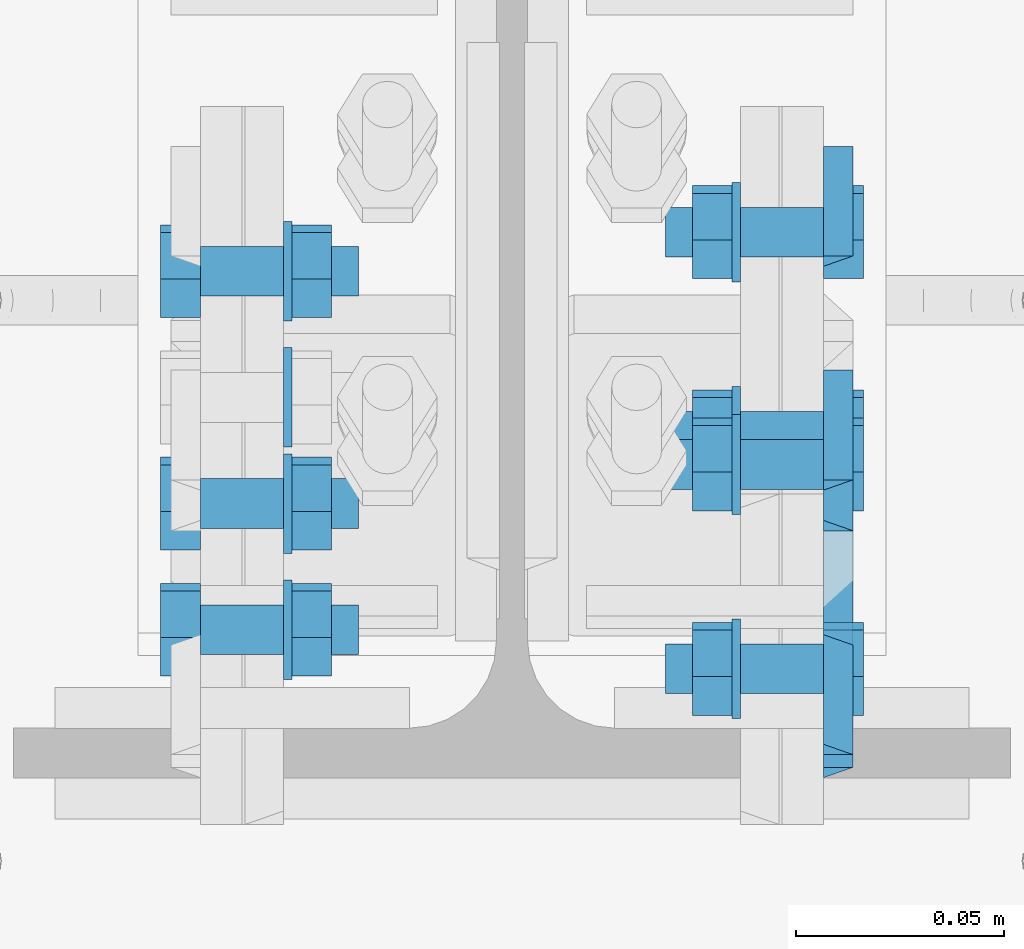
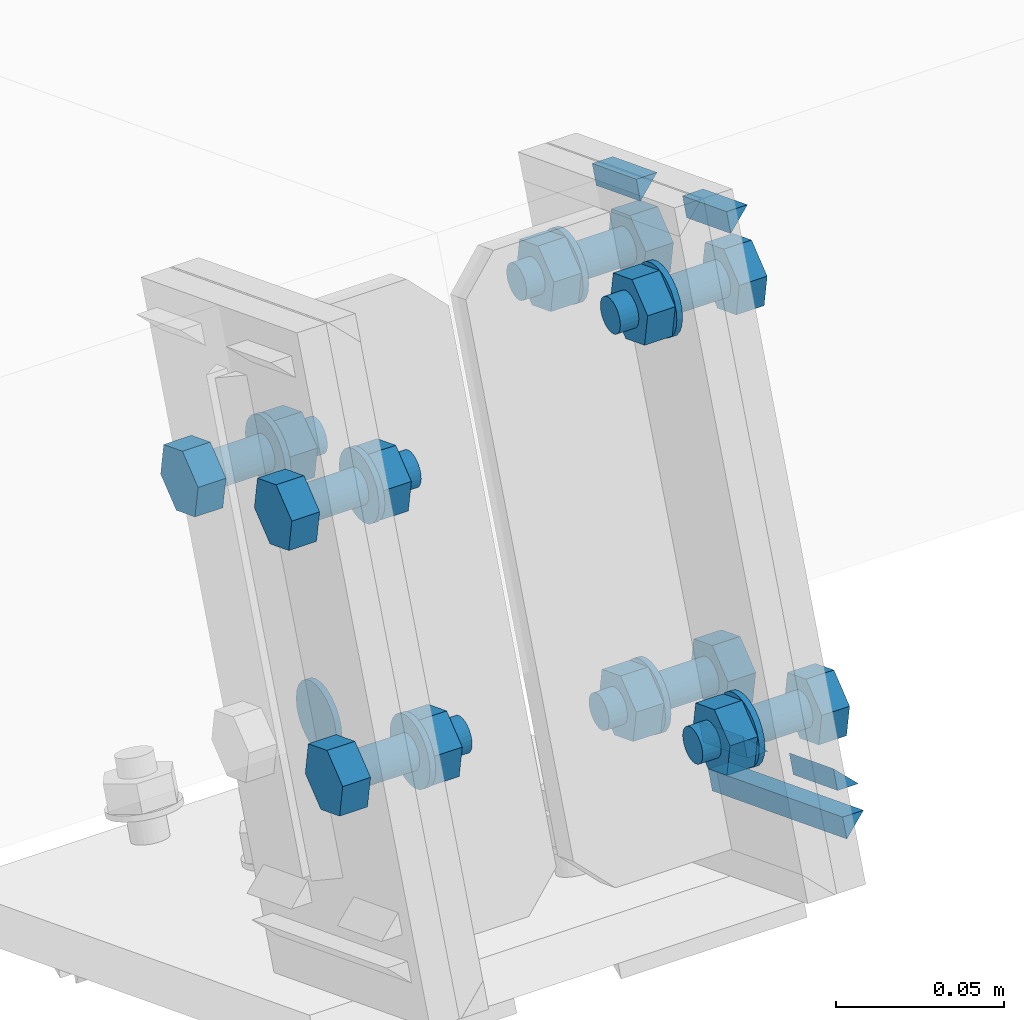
# One storey, part 35 of 72: 29 mechanical fasteners, 10 fasteners.
"""IFC4 building model written with IfcOpenShell, lengths in metres."""

from ifc_helpers import new_model, si_unit, frame, origin_with_axes, place, context, project, spatial, polyline, outline, extrude, type_object, element, save


model = new_model("IFC4")

# Units and contexts
model_context = context("Model", 3, precision=1e-05, world=origin_with_axes())
ifc_project = project(units=[si_unit("LENGTHUNIT", "METRE"), si_unit("AREAUNIT", "SQUARE_METRE"), si_unit("VOLUMEUNIT", "CUBIC_METRE"), si_unit("MASSUNIT", "GRAM", prefix="KILO"), si_unit("TIMEUNIT", "SECOND"), si_unit("PLANEANGLEUNIT", "RADIAN"), si_unit("SOLIDANGLEUNIT", "STERADIAN"), si_unit("THERMODYNAMICTEMPERATUREUNIT", "DEGREE_CELSIUS")], contexts=[model_context])

# Site, building, storey
placement_1 = place(None, origin_with_axes())
site = spatial("IfcSite", under=ifc_project, at=placement_1, Name="Italia", CompositionType="ELEMENT")
building = spatial("IfcBuilding", under=site, at=placement_1, Name="Uffici", CompositionType="ELEMENT")
storey = spatial("IfcBuildingStorey", under=building, at=placement_1, Name="Storey 0", CompositionType="ELEMENT", Elevation=0.0)

# Mechanical fasteners
mechanical_fastener_type_1 = type_object("IfcMechanicalFastenerType", Name="Collegamento 0203_0202", PredefinedType="BOLT")
placement_2 = place(placement_1, origin_with_axes())
mechanical_fastener_1_placement = place(placement_2, origin_with_axes())
element("IfcMechanicalFastener", 1, at=mechanical_fastener_1_placement, inside=storey, type_object=mechanical_fastener_type_1, Name="Collegamento 0203_0202", NominalDiameter=0.024, context=model_context, shape_type="SweptSolid", body=[
    extrude(outline(polyline([(0.0, 0.0), (-0.000408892, -0.00310564), (-0.0016077, -0.00600004), (-0.00351472, -0.00848532), (-0.006, -0.0103922), (-0.00889417, -0.011591), (-0.012, -0.0120001), (-0.0151058, -0.011591), (-0.018, -0.0103922), (-0.0204853, -0.00848532), (-0.0223923, -0.00600004), (-0.0235911, -0.00310564), (-0.024, 0.0), (-0.0235911, 0.00310564), (-0.0223923, 0.00600004), (-0.0204853, 0.00848532), (-0.018, 0.0103922), (-0.0151058, 0.011591), (-0.012, 0.0120001), (-0.00889417, 0.011591), (-0.006, 0.0103922), (-0.00351471, 0.00848532), (-0.00160769, 0.00600004), (-0.000408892, 0.00310564), (0.0, 0.0)])), frame((6.702, -0.035356, 7.09676), z_axis=(-1.0, 0.0, 0.0), x_axis=(0.0, -1.0, 0.0)), (0.0, 0.0, 1.0), 0.00199986),
])
mechanical_fastener_type_2 = type_object("IfcMechanicalFastenerType", Name="Collegamento 0203_0202", PredefinedType="BOLT")
mechanical_fastener_2_placement = place(placement_2, origin_with_axes())
element("IfcMechanicalFastener", 2, at=mechanical_fastener_2_placement, inside=storey, type_object=mechanical_fastener_type_2, Name="Collegamento 0203_0202", NominalDiameter=0.0119999, context=model_context, shape_type="SweptSolid", body=[
    extrude(outline(polyline([(0.0, 0.0), (-0.0111886, -0.00433779), (-0.0205394, 0.00318336), (-0.0187015, 0.0150418), (-0.00751284, 0.0193791), (0.00183791, 0.0118585), (0.0, 0.0)])), frame((6.68, -0.0886499, 7.11092), z_axis=(-1.0, 0.0, 0.0), x_axis=(0.0, -1.0, 0.0)), (0.0, 0.0, 1.0), 0.00960016),
])
mechanical_fastener_type_3 = type_object("IfcMechanicalFastenerType", Name="Collegamento 0203_0202", PredefinedType="BOLT")
mechanical_fastener_3_placement = place(placement_2, origin_with_axes())
element("IfcMechanicalFastener", 3, at=mechanical_fastener_3_placement, inside=storey, type_object=mechanical_fastener_type_3, Name="Collegamento 0203_0202", NominalDiameter=0.012, context=model_context, shape_type="SweptSolid", body=[
    extrude(outline(polyline([(0.0, 0.0), (-0.000204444, -0.00155306), (-0.000803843, -0.00299978), (-0.00175735, -0.00424242), (-0.003, -0.00519609), (-0.00444708, -0.00579548), (-0.006, -0.00600004), (-0.00755291, -0.00579548), (-0.009, -0.00519609), (-0.0102426, -0.00424242), (-0.0111962, -0.00299978), (-0.0117956, -0.00155306), (-0.012, 0.0), (-0.0117956, 0.00155306), (-0.0111962, 0.00299978), (-0.0102426, 0.00424242), (-0.009, 0.00519609), (-0.00755291, 0.00579548), (-0.006, 0.00600004), (-0.00444708, 0.00579548), (-0.003, 0.00519609), (-0.00175735, 0.00424242), (-0.000803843, 0.00299978), (-0.000204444, 0.00155306), (0.0, 0.0)])), frame((6.718, -0.0852992, 7.11844), z_axis=(-1.0, 0.0, 0.0), x_axis=(0.0, -1.0, 0.0)), (0.0, 0.0, 1.0), 0.0380001),
])
mechanical_fastener_type_4 = type_object("IfcMechanicalFastenerType", Name="Collegamento 0203_0202", PredefinedType="BOLT")
mechanical_fastener_4_placement = place(placement_2, origin_with_axes())
element("IfcMechanicalFastener", 4, at=mechanical_fastener_4_placement, inside=storey, type_object=mechanical_fastener_type_4, Name="Collegamento 0203_0202", NominalDiameter=0.0119999, context=model_context, shape_type="SweptSolid", body=[
    extrude(outline(polyline([(0.0, 0.0), (-0.0111886, -0.00433779), (-0.0205394, 0.00318336), (-0.0187015, 0.0150418), (-0.00751284, 0.0193791), (0.00183791, 0.0118585), (0.0, 0.0)])), frame((6.7116, -0.0886499, 7.11092), z_axis=(-1.0, 0.0, 0.0), x_axis=(0.0, -1.0, 0.0)), (0.0, 0.0, 1.0), 0.00960016),
])
mechanical_fastener_type_5 = type_object("IfcMechanicalFastenerType", Name="Collegamento 0203_0202", PredefinedType="BOLT")
mechanical_fastener_5_placement = place(placement_2, origin_with_axes())
element("IfcMechanicalFastener", 5, at=mechanical_fastener_5_placement, inside=storey, type_object=mechanical_fastener_type_5, Name="Collegamento 0203_0202", NominalDiameter=0.024, context=model_context, shape_type="SweptSolid", body=[
    extrude(outline(polyline([(0.0, 0.0), (-0.000408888, -0.00310564), (-0.0016077, -0.00600004), (-0.00351472, -0.00848532), (-0.006, -0.0103922), (-0.00889418, -0.011591), (-0.012, -0.0120001), (-0.0151058, -0.011591), (-0.018, -0.0103922), (-0.0204853, -0.00848532), (-0.0223923, -0.00600004), (-0.0235911, -0.00310564), (-0.024, 0.0), (-0.0235911, 0.00310564), (-0.0223923, 0.00600004), (-0.0204853, 0.00848532), (-0.018, 0.0103922), (-0.0151058, 0.011591), (-0.012, 0.0120001), (-0.00889418, 0.011591), (-0.006, 0.0103922), (-0.00351471, 0.00848532), (-0.00160769, 0.00600004), (-0.000408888, 0.00310564), (0.0, 0.0)])), frame((6.702, -0.0912992, 7.11844), z_axis=(-1.0, 0.0, 0.0), x_axis=(0.0, -1.0, 0.0)), (0.0, 0.0, 1.0), 0.00199986),
])
mechanical_fastener_type_6 = type_object("IfcMechanicalFastenerType", Name="Collegamento 0203_0202", PredefinedType="BOLT")
mechanical_fastener_6_placement = place(placement_2, origin_with_axes())
element("IfcMechanicalFastener", 6, at=mechanical_fastener_6_placement, inside=storey, type_object=mechanical_fastener_type_6, Name="Collegamento 0203_0202", NominalDiameter=0.0119999, context=model_context, shape_type="SweptSolid", body=[
    extrude(outline(polyline([(0.0, 0.0), (-0.0111886, -0.00433731), (-0.0205394, 0.00318336), (-0.0187015, 0.0150418), (-0.00751284, 0.0193796), (0.00183791, 0.0118585), (0.0, 0.0)])), frame((6.68, -0.00234391, 7.16756), z_axis=(-1.0, 0.0, 0.0), x_axis=(0.0, -1.0, 0.0)), (0.0, 0.0, 1.0), 0.00960016),
])
mechanical_fastener_type_7 = type_object("IfcMechanicalFastenerType", Name="Collegamento 0203_0202", PredefinedType="BOLT")
mechanical_fastener_7_placement = place(placement_2, origin_with_axes())
element("IfcMechanicalFastener", 7, at=mechanical_fastener_7_placement, inside=storey, type_object=mechanical_fastener_type_7, Name="Collegamento 0203_0202", NominalDiameter=0.012, context=model_context, shape_type="SweptSolid", body=[
    extrude(outline(polyline([(0.0, 0.0), (-0.000204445, -0.00155306), (-0.000803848, -0.00299978), (-0.00175736, -0.00424242), (-0.003, -0.00519609), (-0.00444709, -0.00579548), (-0.006, -0.00600004), (-0.00755292, -0.00579548), (-0.009, -0.00519609), (-0.0102426, -0.00424242), (-0.0111962, -0.00299978), (-0.0117956, -0.00155306), (-0.012, 0.0), (-0.0117956, 0.00155306), (-0.0111962, 0.00299978), (-0.0102426, 0.00424242), (-0.009, 0.00519609), (-0.00755291, 0.00579548), (-0.006, 0.00600004), (-0.00444709, 0.00579548), (-0.003, 0.00519609), (-0.00175736, 0.00424242), (-0.000803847, 0.00299978), (-0.000204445, 0.00155306), (0.0, 0.0)])), frame((6.718, 0.00100683, 7.17508), z_axis=(-1.0, 0.0, 0.0), x_axis=(0.0, -1.0, 0.0)), (0.0, 0.0, 1.0), 0.0380001),
])
mechanical_fastener_type_8 = type_object("IfcMechanicalFastenerType", Name="Collegamento 0203_0202", PredefinedType="BOLT")
mechanical_fastener_8_placement = place(placement_2, origin_with_axes())
element("IfcMechanicalFastener", 8, at=mechanical_fastener_8_placement, inside=storey, type_object=mechanical_fastener_type_8, Name="Collegamento 0203_0202", NominalDiameter=0.0119999, context=model_context, shape_type="SweptSolid", body=[
    extrude(outline(polyline([(0.0, 0.0), (-0.0111886, -0.00433731), (-0.0205394, 0.00318336), (-0.0187015, 0.0150418), (-0.00751284, 0.0193796), (0.00183791, 0.0118585), (0.0, 0.0)])), frame((6.7116, -0.00234391, 7.16756), z_axis=(-1.0, 0.0, 0.0), x_axis=(0.0, -1.0, 0.0)), (0.0, 0.0, 1.0), 0.00960016),
])
mechanical_fastener_type_9 = type_object("IfcMechanicalFastenerType", Name="Collegamento 0203_0202", PredefinedType="BOLT")
mechanical_fastener_9_placement = place(placement_2, origin_with_axes())
element("IfcMechanicalFastener", 9, at=mechanical_fastener_9_placement, inside=storey, type_object=mechanical_fastener_type_9, Name="Collegamento 0203_0202", NominalDiameter=0.024, context=model_context, shape_type="SweptSolid", body=[
    extrude(outline(polyline([(0.0, 0.0), (-0.00040889, -0.00310564), (-0.0016077, -0.00600004), (-0.00351472, -0.00848532), (-0.006, -0.0103922), (-0.00889417, -0.011591), (-0.012, -0.0120001), (-0.0151058, -0.011591), (-0.018, -0.0103922), (-0.0204853, -0.00848532), (-0.0223923, -0.00600004), (-0.0235911, -0.00310564), (-0.024, 0.0), (-0.0235911, 0.00310564), (-0.0223923, 0.00600004), (-0.0204853, 0.00848532), (-0.018, 0.0103922), (-0.0151058, 0.011591), (-0.012, 0.0120001), (-0.00889417, 0.011591), (-0.006, 0.0103922), (-0.00351472, 0.00848532), (-0.00160769, 0.00600004), (-0.00040889, 0.00310564), (0.0, 0.0)])), frame((6.702, -0.00499317, 7.17508), z_axis=(-1.0, 0.0, 0.0), x_axis=(0.0, -1.0, 0.0)), (0.0, 0.0, 1.0), 0.00199986),
])
mechanical_fastener_type_10 = type_object("IfcMechanicalFastenerType", Name="Collegamento 0203_0202", PredefinedType="BOLT")
mechanical_fastener_10_placement = place(placement_2, origin_with_axes())
element("IfcMechanicalFastener", 10, at=mechanical_fastener_10_placement, inside=storey, type_object=mechanical_fastener_type_10, Name="Collegamento 0203_0202", NominalDiameter=0.0119999, context=model_context, shape_type="SweptSolid", body=[
    extrude(outline(polyline([(0.0, 0.0), (-0.0111886, -0.00433779), (-0.0205394, 0.00318336), (-0.0187015, 0.0150418), (-0.00751285, 0.0193791), (0.0018379, 0.0118585), (0.0, 0.0)])), frame((6.68, -0.0582871, 7.18924), z_axis=(-1.0, 0.0, 0.0), x_axis=(0.0, -1.0, 0.0)), (0.0, 0.0, 1.0), 0.00960016),
])
mechanical_fastener_type_11 = type_object("IfcMechanicalFastenerType", Name="Collegamento 0203_0202", PredefinedType="BOLT")
mechanical_fastener_11_placement = place(placement_2, origin_with_axes())
element("IfcMechanicalFastener", 11, at=mechanical_fastener_11_placement, inside=storey, type_object=mechanical_fastener_type_11, Name="Collegamento 0203_0202", NominalDiameter=0.012, context=model_context, shape_type="SweptSolid", body=[
    extrude(outline(polyline([(0.0, 0.0), (-0.000204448, -0.00155306), (-0.000803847, -0.00299978), (-0.00175736, -0.00424242), (-0.003, -0.00519609), (-0.00444709, -0.00579548), (-0.006, -0.00600004), (-0.00755291, -0.00579548), (-0.009, -0.00519609), (-0.0102426, -0.00424242), (-0.0111962, -0.00299978), (-0.0117956, -0.00155306), (-0.012, 0.0), (-0.0117956, 0.00155306), (-0.0111962, 0.00299978), (-0.0102426, 0.00424242), (-0.009, 0.00519609), (-0.00755291, 0.00579548), (-0.006, 0.00600004), (-0.00444709, 0.00579548), (-0.003, 0.00519609), (-0.00175736, 0.00424242), (-0.000803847, 0.00299978), (-0.000204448, 0.00155306), (0.0, 0.0)])), frame((6.718, -0.0549364, 7.19676), z_axis=(-1.0, 0.0, 0.0), x_axis=(0.0, -1.0, 0.0)), (0.0, 0.0, 1.0), 0.0380001),
])
mechanical_fastener_type_12 = type_object("IfcMechanicalFastenerType", Name="Collegamento 0203_0202", PredefinedType="BOLT")
mechanical_fastener_12_placement = place(placement_2, origin_with_axes())
element("IfcMechanicalFastener", 12, at=mechanical_fastener_12_placement, inside=storey, type_object=mechanical_fastener_type_12, Name="Collegamento 0203_0202", NominalDiameter=0.0119999, context=model_context, shape_type="SweptSolid", body=[
    extrude(outline(polyline([(0.0, 0.0), (-0.0111886, -0.00433779), (-0.0205394, 0.00318336), (-0.0187015, 0.0150418), (-0.00751285, 0.0193791), (0.0018379, 0.0118585), (0.0, 0.0)])), frame((6.7116, -0.0582871, 7.18924), z_axis=(-1.0, 0.0, 0.0), x_axis=(0.0, -1.0, 0.0)), (0.0, 0.0, 1.0), 0.00960016),
])
mechanical_fastener_type_13 = type_object("IfcMechanicalFastenerType", Name="Collegamento 0203_0202", PredefinedType="BOLT")
mechanical_fastener_13_placement = place(placement_2, origin_with_axes())
element("IfcMechanicalFastener", 13, at=mechanical_fastener_13_placement, inside=storey, type_object=mechanical_fastener_type_13, Name="Collegamento 0203_0202", NominalDiameter=0.024, context=model_context, shape_type="SweptSolid", body=[
    extrude(outline(polyline([(0.0, 0.0), (-0.000408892, -0.00310564), (-0.0016077, -0.00600004), (-0.00351472, -0.00848532), (-0.006, -0.0103922), (-0.00889417, -0.011591), (-0.012, -0.0120001), (-0.0151058, -0.011591), (-0.018, -0.0103922), (-0.0204853, -0.00848532), (-0.0223923, -0.00600004), (-0.0235911, -0.00310564), (-0.024, 0.0), (-0.0235911, 0.00310564), (-0.0223923, 0.00600004), (-0.0204853, 0.00848532), (-0.018, 0.0103922), (-0.0151058, 0.011591), (-0.012, 0.0120001), (-0.00889418, 0.011591), (-0.006, 0.0103922), (-0.00351472, 0.00848532), (-0.00160769, 0.00600004), (-0.000408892, 0.00310564), (0.0, 0.0)])), frame((6.702, -0.0609364, 7.19676), z_axis=(-1.0, 0.0, 0.0), x_axis=(0.0, -1.0, 0.0)), (0.0, 0.0, 1.0), 0.00199986),
])

# Fasteners
fastener_type_1 = type_object("IfcFastenerType", Name="Collegamento 0203_0204", PredefinedType="WELD")
fastener_1_placement = place(placement_2, origin_with_axes())
element("IfcFastener", 14, at=fastener_1_placement, inside=storey, type_object=fastener_type_1, Name="Collegamento 0203_0204", context=model_context, shape_type="SweptSolid", body=[
    extrude(outline(polyline([(0.0, 0.0), (-0.00717354, 0.00695848), (0.0, 0.00695848), (0.0, 0.0)])), frame((6.82995, 0.00818294, 7.2203), z_axis=(0.0, 0.932385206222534, -0.361466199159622), x_axis=(-1.0, 0.0, 0.0)), (0.0, 0.0, 1.0), 0.0283003),
])
fastener_type_2 = type_object("IfcFastenerType", Name="Collegamento 0203_0204", PredefinedType="WELD")
fastener_2_placement = place(placement_2, origin_with_axes())
element("IfcFastener", 15, at=fastener_2_placement, inside=storey, type_object=fastener_type_2, Name="Collegamento 0203_0204", context=model_context, shape_type="SweptSolid", body=[
    extrude(outline(polyline([(0.0, 0.0), (0.00717354, -0.00695801), (0.0, -0.00695801), (0.0, 0.0)])), frame((6.82995, -0.0265838, 7.05233), z_axis=(0.0, -0.932390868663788, 0.36145156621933), x_axis=(1.0, 0.0, 0.0)), (0.0, 0.0, 1.0), 0.0283001),
])
fastener_type_3 = type_object("IfcFastenerType", Name="Collegamento 0203_0204", PredefinedType="WELD")
fastener_3_placement = place(placement_2, origin_with_axes())
element("IfcFastener", 16, at=fastener_3_placement, inside=storey, type_object=fastener_type_3, Name="Collegamento 0203_0204", context=model_context, shape_type="SweptSolid", body=[
    extrude(outline(polyline([(0.0, 0.0), (-0.00717354, 0.00695801), (0.0, 0.00695801), (0.0, 0.0)])), frame((6.82995, -0.114929, 7.06264), z_axis=(0.0, 0.93238765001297, -0.361459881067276), x_axis=(-1.0, 0.0, 0.0)), (0.0, 0.0, 1.0), 0.0861001),
])
fastener_type_4 = type_object("IfcFastenerType", Name="Collegamento 0203_0204", PredefinedType="WELD")
fastener_4_placement = place(placement_2, origin_with_axes())
element("IfcFastener", 17, at=fastener_4_placement, inside=storey, type_object=fastener_type_4, Name="Collegamento 0203_0204", context=model_context, shape_type="SweptSolid", body=[
    extrude(outline(polyline([(0.0, 0.0), (0.00717354, -0.00695753), (0.0, -0.00695753), (0.0, 0.0)])), frame((6.82995, -0.0804757, 7.07322), z_axis=(0.0, -0.932385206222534, 0.361466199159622), x_axis=(1.0, 0.0, 0.0)), (0.0, 0.0, 1.0), 0.0283003),
])
fastener_type_5 = type_object("IfcFastenerType", Name="Collegamento 0203_0204", PredefinedType="WELD")
fastener_5_placement = place(placement_2, origin_with_axes())
element("IfcFastener", 18, at=fastener_5_placement, inside=storey, type_object=fastener_type_5, Name="Collegamento 0203_0204", context=model_context, shape_type="SweptSolid", body=[
    extrude(outline(polyline([(0.0, 0.0), (-0.00717354, 0.00695848), (0.0, 0.00695848), (0.0, 0.0)])), frame((6.82995, -0.0457087, 7.24119), z_axis=(0.0, 0.932388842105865, -0.361456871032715), x_axis=(-1.0, 0.0, 0.0)), (0.0, 0.0, 1.0), 0.0282997),
])
fastener_type_6 = type_object("IfcFastenerType", Name="Collegamento 0203_0204", PredefinedType="WELD")
fastener_6_placement = place(placement_2, origin_with_axes())
element("IfcFastener", 19, at=fastener_6_placement, inside=storey, type_object=fastener_type_6, Name="Collegamento 0203_0204", context=model_context, shape_type="SweptSolid", body=[
    extrude(outline(polyline([(0.0, 0.0), (-0.00717354, 0.00695848), (0.0, 0.00695848), (0.0, 0.0)])), frame((6.82995, 0.00818294, 7.2203), z_axis=(0.0, 0.932385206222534, -0.361466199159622), x_axis=(-1.0, 0.0, 0.0)), (0.0, 0.0, 1.0), 0.0283003),
])
fastener_type_7 = type_object("IfcFastenerType", Name="Collegamento 0203_0204", PredefinedType="WELD")
fastener_7_placement = place(placement_2, origin_with_axes())
element("IfcFastener", 20, at=fastener_7_placement, inside=storey, type_object=fastener_type_7, Name="Collegamento 0203_0204", context=model_context, shape_type="SweptSolid", body=[
    extrude(outline(polyline([(0.0, 0.0), (0.00717354, -0.00695801), (0.0, -0.00695801), (0.0, 0.0)])), frame((6.82995, -0.0265838, 7.05233), z_axis=(0.0, -0.932390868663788, 0.36145156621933), x_axis=(1.0, 0.0, 0.0)), (0.0, 0.0, 1.0), 0.0283001),
])
fastener_type_8 = type_object("IfcFastenerType", Name="Collegamento 0203_0204", PredefinedType="WELD")
fastener_8_placement = place(placement_2, origin_with_axes())
element("IfcFastener", 21, at=fastener_8_placement, inside=storey, type_object=fastener_type_8, Name="Collegamento 0203_0204", context=model_context, shape_type="SweptSolid", body=[
    extrude(outline(polyline([(0.0, 0.0), (-0.00717354, 0.00695801), (0.0, 0.00695801), (0.0, 0.0)])), frame((6.82995, -0.114929, 7.06264), z_axis=(0.0, 0.93238765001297, -0.361459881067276), x_axis=(-1.0, 0.0, 0.0)), (0.0, 0.0, 1.0), 0.0861001),
])
fastener_type_9 = type_object("IfcFastenerType", Name="Collegamento 0203_0204", PredefinedType="WELD")
fastener_9_placement = place(placement_2, origin_with_axes())
element("IfcFastener", 22, at=fastener_9_placement, inside=storey, type_object=fastener_type_9, Name="Collegamento 0203_0204", context=model_context, shape_type="SweptSolid", body=[
    extrude(outline(polyline([(0.0, 0.0), (0.00717354, -0.00695753), (0.0, -0.00695753), (0.0, 0.0)])), frame((6.82995, -0.0804757, 7.07322), z_axis=(0.0, -0.932385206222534, 0.361466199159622), x_axis=(1.0, 0.0, 0.0)), (0.0, 0.0, 1.0), 0.0283003),
])
fastener_type_10 = type_object("IfcFastenerType", Name="Collegamento 0203_0204", PredefinedType="WELD")
fastener_10_placement = place(placement_2, origin_with_axes())
element("IfcFastener", 23, at=fastener_10_placement, inside=storey, type_object=fastener_type_10, Name="Collegamento 0203_0204", context=model_context, shape_type="SweptSolid", body=[
    extrude(outline(polyline([(0.0, 0.0), (-0.00717354, 0.00695848), (0.0, 0.00695848), (0.0, 0.0)])), frame((6.82995, -0.0457087, 7.24119), z_axis=(0.0, 0.932388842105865, -0.361456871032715), x_axis=(-1.0, 0.0, 0.0)), (0.0, 0.0, 1.0), 0.0282997),
])

# Mechanical fasteners
mechanical_fastener_type_14 = type_object("IfcMechanicalFastenerType", Name="Collegamento 0203_0204", PredefinedType="BOLT")
mechanical_fastener_14_placement = place(placement_2, origin_with_axes())
element("IfcMechanicalFastener", 24, at=mechanical_fastener_14_placement, inside=storey, type_object=mechanical_fastener_type_14, Name="Collegamento 0203_0204", NominalDiameter=0.0119999, context=model_context, shape_type="SweptSolid", body=[
    extrude(outline(polyline([(0.0, 0.0), (-0.0111886, 0.00433731), (-0.0130265, 0.0161958), (-0.0036758, 0.0237169), (0.00751285, 0.0193791), (0.00935075, 0.00752068), (0.0, 0.0)])), frame((6.83, -0.0868593, 7.08234), z_axis=(1.0, 0.0, 0.0), x_axis=(0.0, 1.0, 0.0)), (0.0, 0.0, 1.0), 0.00960016),
])
mechanical_fastener_type_15 = type_object("IfcMechanicalFastenerType", Name="Collegamento 0203_0204", PredefinedType="BOLT")
mechanical_fastener_15_placement = place(placement_2, origin_with_axes())
element("IfcMechanicalFastener", 25, at=mechanical_fastener_15_placement, inside=storey, type_object=mechanical_fastener_type_15, Name="Collegamento 0203_0204", NominalDiameter=0.012, context=model_context, shape_type="SweptSolid", body=[
    extrude(outline(polyline([(0.0, 0.0), (-0.000204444, -0.00155306), (-0.000803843, -0.00299978), (-0.00175735, -0.00424242), (-0.003, -0.00519609), (-0.00444708, -0.00579548), (-0.006, -0.00600004), (-0.00755291, -0.00579548), (-0.009, -0.00519609), (-0.0102426, -0.00424242), (-0.0111962, -0.00299978), (-0.0117956, -0.00155306), (-0.012, 0.0), (-0.0117956, 0.00155306), (-0.0111962, 0.00299978), (-0.0102426, 0.00424242), (-0.009, 0.00519609), (-0.00755291, 0.00579548), (-0.006, 0.00600004), (-0.00444708, 0.00579548), (-0.003, 0.00519609), (-0.00175735, 0.00424242), (-0.000803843, 0.00299978), (-0.000204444, 0.00155306), (0.0, 0.0)])), frame((6.792, -0.0826972, 7.0942), z_axis=(1.0, 0.0, 0.0), x_axis=(0.0, 1.0, 0.0)), (0.0, 0.0, 1.0), 0.0380001),
])
mechanical_fastener_type_16 = type_object("IfcMechanicalFastenerType", Name="Collegamento 0203_0204", PredefinedType="BOLT")
mechanical_fastener_16_placement = place(placement_2, origin_with_axes())
element("IfcMechanicalFastener", 26, at=mechanical_fastener_16_placement, inside=storey, type_object=mechanical_fastener_type_16, Name="Collegamento 0203_0204", NominalDiameter=0.0119999, context=model_context, shape_type="SweptSolid", body=[
    extrude(outline(polyline([(0.0, 0.0), (-0.0111886, 0.00433731), (-0.0130265, 0.0161958), (-0.0036758, 0.0237169), (0.00751285, 0.0193791), (0.00935075, 0.00752068), (0.0, 0.0)])), frame((6.7984, -0.0868593, 7.08234), z_axis=(1.0, 0.0, 0.0), x_axis=(0.0, 1.0, 0.0)), (0.0, 0.0, 1.0), 0.00960016),
])
mechanical_fastener_type_17 = type_object("IfcMechanicalFastenerType", Name="Collegamento 0203_0204", PredefinedType="BOLT")
mechanical_fastener_17_placement = place(placement_2, origin_with_axes())
element("IfcMechanicalFastener", 27, at=mechanical_fastener_17_placement, inside=storey, type_object=mechanical_fastener_type_17, Name="Collegamento 0203_0204", NominalDiameter=0.024, context=model_context, shape_type="SweptSolid", body=[
    extrude(outline(polyline([(0.0, 0.0), (-0.000408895, -0.00310564), (-0.00160769, -0.00600004), (-0.00351472, -0.00848532), (-0.006, -0.0103922), (-0.00889418, -0.011591), (-0.012, -0.0120001), (-0.0151058, -0.011591), (-0.018, -0.0103922), (-0.0204853, -0.00848532), (-0.0223923, -0.00600004), (-0.0235911, -0.00310564), (-0.024, 0.0), (-0.0235911, 0.00310564), (-0.0223923, 0.00600004), (-0.0204853, 0.00848532), (-0.018, 0.0103922), (-0.0151058, 0.011591), (-0.012, 0.0120001), (-0.00889418, 0.011591), (-0.006, 0.0103922), (-0.00351471, 0.00848532), (-0.00160769, 0.00600004), (-0.000408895, 0.00310564), (0.0, 0.0)])), frame((6.808, -0.0766972, 7.0942), z_axis=(1.0, 0.0, 0.0), x_axis=(0.0, 1.0, 0.0)), (0.0, 0.0, 1.0), 0.00199986),
])
mechanical_fastener_type_18 = type_object("IfcMechanicalFastenerType", Name="Collegamento 0203_0204", PredefinedType="BOLT")
mechanical_fastener_18_placement = place(placement_2, origin_with_axes())
element("IfcMechanicalFastener", 28, at=mechanical_fastener_18_placement, inside=storey, type_object=mechanical_fastener_type_18, Name="Collegamento 0203_0204", NominalDiameter=0.0119999, context=model_context, shape_type="SweptSolid", body=[
    extrude(outline(polyline([(0.0, 0.0), (-0.0111886, 0.00433731), (-0.0130265, 0.0161958), (-0.00367581, 0.0237164), (0.00751284, 0.0193791), (0.00935074, 0.00752068), (0.0, 0.0)])), frame((6.83, -0.0309161, 7.06066), z_axis=(1.0, 0.0, 0.0), x_axis=(0.0, 1.0, 0.0)), (0.0, 0.0, 1.0), 0.00960016),
])
mechanical_fastener_type_19 = type_object("IfcMechanicalFastenerType", Name="Collegamento 0203_0204", PredefinedType="BOLT")
mechanical_fastener_19_placement = place(placement_2, origin_with_axes())
element("IfcMechanicalFastener", 29, at=mechanical_fastener_19_placement, inside=storey, type_object=mechanical_fastener_type_19, Name="Collegamento 0203_0204", NominalDiameter=0.012, context=model_context, shape_type="SweptSolid", body=[
    extrude(outline(polyline([(0.0, 0.0), (-0.000204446, -0.00155306), (-0.000803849, -0.00299978), (-0.00175736, -0.00424242), (-0.003, -0.00519609), (-0.00444709, -0.00579548), (-0.006, -0.00600004), (-0.00755291, -0.00579548), (-0.009, -0.00519609), (-0.0102426, -0.00424242), (-0.0111962, -0.00299978), (-0.0117956, -0.00155306), (-0.012, 0.0), (-0.0117956, 0.00155306), (-0.0111962, 0.00299978), (-0.0102426, 0.00424242), (-0.009, 0.00519609), (-0.00755291, 0.00579548), (-0.006, 0.00600004), (-0.00444709, 0.00579548), (-0.003, 0.00519609), (-0.00175736, 0.00424242), (-0.000803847, 0.00299978), (-0.000204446, 0.00155306), (0.0, 0.0)])), frame((6.792, -0.026754, 7.07251), z_axis=(1.0, 0.0, 0.0), x_axis=(0.0, 1.0, 0.0)), (0.0, 0.0, 1.0), 0.0380001),
])
mechanical_fastener_type_20 = type_object("IfcMechanicalFastenerType", Name="Collegamento 0203_0204", PredefinedType="BOLT")
mechanical_fastener_20_placement = place(placement_2, origin_with_axes())
element("IfcMechanicalFastener", 30, at=mechanical_fastener_20_placement, inside=storey, type_object=mechanical_fastener_type_20, Name="Collegamento 0203_0204", NominalDiameter=0.0119999, context=model_context, shape_type="SweptSolid", body=[
    extrude(outline(polyline([(0.0, 0.0), (-0.0111886, 0.00433731), (-0.0130265, 0.0161958), (-0.00367581, 0.0237164), (0.00751284, 0.0193791), (0.00935074, 0.00752068), (0.0, 0.0)])), frame((6.7984, -0.0309161, 7.06066), z_axis=(1.0, 0.0, 0.0), x_axis=(0.0, 1.0, 0.0)), (0.0, 0.0, 1.0), 0.00960016),
])
mechanical_fastener_type_21 = type_object("IfcMechanicalFastenerType", Name="Collegamento 0203_0204", PredefinedType="BOLT")
mechanical_fastener_21_placement = place(placement_2, origin_with_axes())
element("IfcMechanicalFastener", 31, at=mechanical_fastener_21_placement, inside=storey, type_object=mechanical_fastener_type_21, Name="Collegamento 0203_0204", NominalDiameter=0.024, context=model_context, shape_type="SweptSolid", body=[
    extrude(outline(polyline([(0.0, 0.0), (-0.00040889, -0.00310564), (-0.0016077, -0.00600004), (-0.00351472, -0.00848532), (-0.006, -0.0103922), (-0.00889417, -0.011591), (-0.012, -0.0120001), (-0.0151058, -0.011591), (-0.018, -0.0103922), (-0.0204853, -0.00848532), (-0.0223923, -0.00600004), (-0.0235911, -0.00310564), (-0.024, 0.0), (-0.0235911, 0.00310564), (-0.0223923, 0.00600004), (-0.0204853, 0.00848532), (-0.018, 0.0103922), (-0.0151058, 0.011591), (-0.012, 0.0120001), (-0.00889417, 0.011591), (-0.006, 0.0103922), (-0.00351472, 0.00848532), (-0.00160769, 0.00600004), (-0.00040889, 0.00310564), (0.0, 0.0)])), frame((6.808, -0.020754, 7.07251), z_axis=(1.0, 0.0, 0.0), x_axis=(0.0, 1.0, 0.0)), (0.0, 0.0, 1.0), 0.00199986),
])
mechanical_fastener_type_22 = type_object("IfcMechanicalFastenerType", Name="Collegamento 0203_0204", PredefinedType="BOLT")
mechanical_fastener_22_placement = place(placement_2, origin_with_axes())
element("IfcMechanicalFastener", 32, at=mechanical_fastener_22_placement, inside=storey, type_object=mechanical_fastener_type_22, Name="Collegamento 0203_0204", NominalDiameter=0.0119999, context=model_context, shape_type="SweptSolid", body=[
    extrude(outline(polyline([(0.0, 0.0), (-0.0111886, 0.00433731), (-0.0130265, 0.0161958), (-0.0036758, 0.0237164), (0.00751284, 0.0193791), (0.00935074, 0.00752068), (0.0, 0.0)])), frame((6.83, -0.0377005, 7.20915), z_axis=(1.0, 0.0, 0.0), x_axis=(0.0, 1.0, 0.0)), (0.0, 0.0, 1.0), 0.00960016),
])
mechanical_fastener_type_23 = type_object("IfcMechanicalFastenerType", Name="Collegamento 0203_0204", PredefinedType="BOLT")
mechanical_fastener_23_placement = place(placement_2, origin_with_axes())
element("IfcMechanicalFastener", 33, at=mechanical_fastener_23_placement, inside=storey, type_object=mechanical_fastener_type_23, Name="Collegamento 0203_0204", NominalDiameter=0.012, context=model_context, shape_type="SweptSolid", body=[
    extrude(outline(polyline([(0.0, 0.0), (-0.000204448, -0.00155306), (-0.000803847, -0.00299978), (-0.00175736, -0.00424242), (-0.003, -0.00519609), (-0.00444709, -0.00579548), (-0.006, -0.00600004), (-0.00755291, -0.00579548), (-0.009, -0.00519609), (-0.0102426, -0.00424242), (-0.0111962, -0.00299978), (-0.0117956, -0.00155306), (-0.012, 0.0), (-0.0117956, 0.00155306), (-0.0111962, 0.00299978), (-0.0102426, 0.00424242), (-0.009, 0.00519609), (-0.00755291, 0.00579548), (-0.006, 0.00600004), (-0.00444709, 0.00579548), (-0.003, 0.00519609), (-0.00175736, 0.00424242), (-0.000803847, 0.00299978), (-0.000204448, 0.00155306), (0.0, 0.0)])), frame((6.792, -0.0335384, 7.22101), z_axis=(1.0, 0.0, 0.0), x_axis=(0.0, 1.0, 0.0)), (0.0, 0.0, 1.0), 0.0380001),
])
mechanical_fastener_type_24 = type_object("IfcMechanicalFastenerType", Name="Collegamento 0203_0204", PredefinedType="BOLT")
mechanical_fastener_24_placement = place(placement_2, origin_with_axes())
element("IfcMechanicalFastener", 34, at=mechanical_fastener_24_placement, inside=storey, type_object=mechanical_fastener_type_24, Name="Collegamento 0203_0204", NominalDiameter=0.0119999, context=model_context, shape_type="SweptSolid", body=[
    extrude(outline(polyline([(0.0, 0.0), (-0.0111886, 0.00433731), (-0.0130265, 0.0161958), (-0.0036758, 0.0237164), (0.00751284, 0.0193791), (0.00935074, 0.00752068), (0.0, 0.0)])), frame((6.7984, -0.0377005, 7.20915), z_axis=(1.0, 0.0, 0.0), x_axis=(0.0, 1.0, 0.0)), (0.0, 0.0, 1.0), 0.00960016),
])
mechanical_fastener_type_25 = type_object("IfcMechanicalFastenerType", Name="Collegamento 0203_0204", PredefinedType="BOLT")
mechanical_fastener_25_placement = place(placement_2, origin_with_axes())
element("IfcMechanicalFastener", 35, at=mechanical_fastener_25_placement, inside=storey, type_object=mechanical_fastener_type_25, Name="Collegamento 0203_0204", NominalDiameter=0.024, context=model_context, shape_type="SweptSolid", body=[
    extrude(outline(polyline([(0.0, 0.0), (-0.00040889, -0.00310564), (-0.0016077, -0.00600004), (-0.00351472, -0.00848532), (-0.006, -0.0103922), (-0.00889417, -0.011591), (-0.012, -0.0120001), (-0.0151058, -0.011591), (-0.018, -0.0103922), (-0.0204853, -0.00848532), (-0.0223923, -0.00600004), (-0.0235911, -0.00310564), (-0.024, 0.0), (-0.0235911, 0.00310564), (-0.0223923, 0.00600004), (-0.0204853, 0.00848532), (-0.018, 0.0103922), (-0.0151058, 0.011591), (-0.012, 0.0120001), (-0.00889417, 0.011591), (-0.006, 0.0103922), (-0.00351472, 0.00848532), (-0.00160769, 0.00600004), (-0.00040889, 0.00310564), (0.0, 0.0)])), frame((6.808, -0.0275384, 7.22101), z_axis=(1.0, 0.0, 0.0), x_axis=(0.0, 1.0, 0.0)), (0.0, 0.0, 1.0), 0.00199986),
])
mechanical_fastener_type_26 = type_object("IfcMechanicalFastenerType", Name="Collegamento 0203_0204", PredefinedType="BOLT")
mechanical_fastener_26_placement = place(placement_2, origin_with_axes())
element("IfcMechanicalFastener", 36, at=mechanical_fastener_26_placement, inside=storey, type_object=mechanical_fastener_type_26, Name="Collegamento 0203_0204", NominalDiameter=0.0119999, context=model_context, shape_type="SweptSolid", body=[
    extrude(outline(polyline([(0.0, 0.0), (-0.0111886, 0.00433779), (-0.0130266, 0.0161963), (-0.0036758, 0.0237169), (0.00751284, 0.0193796), (0.00935074, 0.00752115), (0.0, 0.0)])), frame((6.83, 0.0182427, 7.18746), z_axis=(1.0, 0.0, 0.0), x_axis=(0.0, 1.0, 0.0)), (0.0, 0.0, 1.0), 0.00960016),
])
mechanical_fastener_type_27 = type_object("IfcMechanicalFastenerType", Name="Collegamento 0203_0204", PredefinedType="BOLT")
mechanical_fastener_27_placement = place(placement_2, origin_with_axes())
element("IfcMechanicalFastener", 37, at=mechanical_fastener_27_placement, inside=storey, type_object=mechanical_fastener_type_27, Name="Collegamento 0203_0204", NominalDiameter=0.012, context=model_context, shape_type="SweptSolid", body=[
    extrude(outline(polyline([(0.0, 0.0), (-0.000204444, -0.00155306), (-0.000803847, -0.00299978), (-0.00175736, -0.00424242), (-0.003, -0.00519609), (-0.00444708, -0.00579548), (-0.006, -0.00600004), (-0.00755291, -0.00579548), (-0.009, -0.00519609), (-0.0102426, -0.00424242), (-0.0111962, -0.00299978), (-0.0117956, -0.00155306), (-0.012, 0.0), (-0.0117956, 0.00155306), (-0.0111962, 0.00299978), (-0.0102426, 0.00424242), (-0.009, 0.00519609), (-0.00755291, 0.00579548), (-0.006, 0.00600004), (-0.00444709, 0.00579548), (-0.003, 0.00519609), (-0.00175736, 0.00424242), (-0.000803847, 0.00299978), (-0.000204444, 0.00155306), (0.0, 0.0)])), frame((6.792, 0.0224048, 7.19932), z_axis=(1.0, 0.0, 0.0), x_axis=(0.0, 1.0, 0.0)), (0.0, 0.0, 1.0), 0.0380001),
])
mechanical_fastener_type_28 = type_object("IfcMechanicalFastenerType", Name="Collegamento 0203_0204", PredefinedType="BOLT")
mechanical_fastener_28_placement = place(placement_2, origin_with_axes())
element("IfcMechanicalFastener", 38, at=mechanical_fastener_28_placement, inside=storey, type_object=mechanical_fastener_type_28, Name="Collegamento 0203_0204", NominalDiameter=0.0119999, context=model_context, shape_type="SweptSolid", body=[
    extrude(outline(polyline([(0.0, 0.0), (-0.0111886, 0.00433779), (-0.0130266, 0.0161963), (-0.0036758, 0.0237169), (0.00751284, 0.0193796), (0.00935074, 0.00752115), (0.0, 0.0)])), frame((6.7984, 0.0182427, 7.18746), z_axis=(1.0, 0.0, 0.0), x_axis=(0.0, 1.0, 0.0)), (0.0, 0.0, 1.0), 0.00960016),
])
mechanical_fastener_type_29 = type_object("IfcMechanicalFastenerType", Name="Collegamento 0203_0204", PredefinedType="BOLT")
mechanical_fastener_29_placement = place(placement_2, origin_with_axes())
element("IfcMechanicalFastener", 39, at=mechanical_fastener_29_placement, inside=storey, type_object=mechanical_fastener_type_29, Name="Collegamento 0203_0204", NominalDiameter=0.024, context=model_context, shape_type="SweptSolid", body=[
    extrude(outline(polyline([(0.0, 0.0), (-0.00040889, -0.00310564), (-0.0016077, -0.00600004), (-0.00351472, -0.00848532), (-0.006, -0.0103922), (-0.00889417, -0.011591), (-0.012, -0.0120001), (-0.0151058, -0.011591), (-0.018, -0.0103922), (-0.0204853, -0.00848532), (-0.0223923, -0.00600004), (-0.0235911, -0.00310564), (-0.024, 0.0), (-0.0235911, 0.00310564), (-0.0223923, 0.00600004), (-0.0204853, 0.00848532), (-0.018, 0.0103922), (-0.0151058, 0.011591), (-0.012, 0.0120001), (-0.00889417, 0.011591), (-0.006, 0.0103922), (-0.00351472, 0.00848532), (-0.00160769, 0.00600004), (-0.00040889, 0.00310564), (0.0, 0.0)])), frame((6.808, 0.0284048, 7.19932), z_axis=(1.0, 0.0, 0.0), x_axis=(0.0, 1.0, 0.0)), (0.0, 0.0, 1.0), 0.00199986),
])

save(model, "model.ifc")
